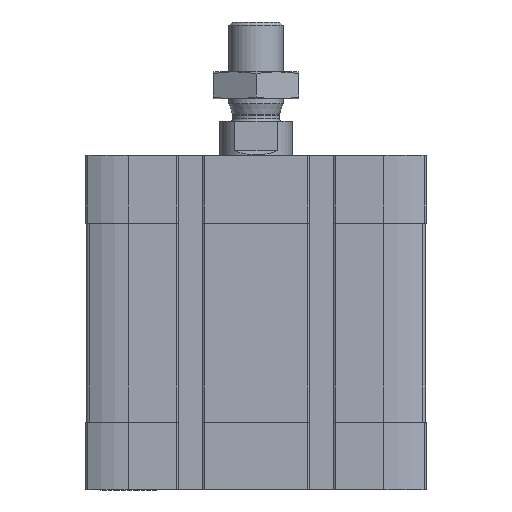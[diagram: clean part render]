
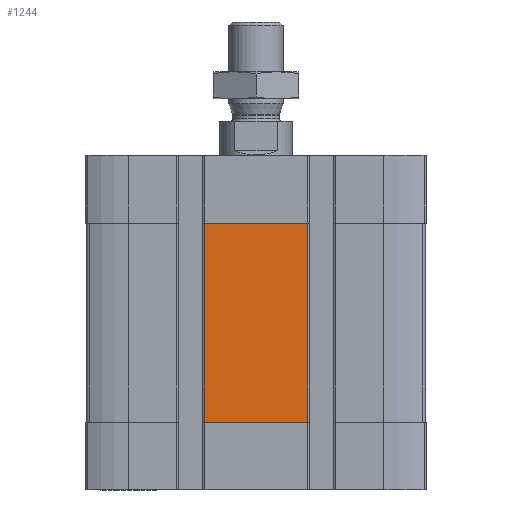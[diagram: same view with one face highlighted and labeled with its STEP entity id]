
A CAD part, front view. The second image highlights one B-rep face of the part: STEP entity #1244.
In plain terms, the highlighted planar face has unit normal (0, -1, 0).
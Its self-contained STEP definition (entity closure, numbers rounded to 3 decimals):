
#165 = DIRECTION ( 'NONE',  ( 0., 0., -1. ) ) ;
#513 = DIRECTION ( 'NONE',  ( 1., 0., 0. ) ) ;
#569 = ORIENTED_EDGE ( 'NONE', *, *, #8624, .T. ) ;
#1078 = CARTESIAN_POINT ( 'NONE',  ( -11.4, -37.5, -59. ) ) ;
#1244 = ADVANCED_FACE ( 'NONE', ( #3526 ), #6675, .T. ) ;
#1427 = CARTESIAN_POINT ( 'NONE',  ( -11.4, -37.5, -59. ) ) ;
#2797 = CARTESIAN_POINT ( 'NONE',  ( 11.4, -37.5, -59. ) ) ;
#3526 = FACE_OUTER_BOUND ( 'NONE', #9018, .T. ) ;
#3707 = VERTEX_POINT ( 'NONE', #2797 ) ;
#4234 = DIRECTION ( 'NONE',  ( -1., 0., 0. ) ) ;
#4264 = CARTESIAN_POINT ( 'NONE',  ( -11.4, -37.5, -15. ) ) ;
#4268 = CARTESIAN_POINT ( 'NONE',  ( 0., -37.5, -15. ) ) ;
#6675 = PLANE ( 'NONE',  #9198 ) ;
#7005 = EDGE_CURVE ( 'NONE', #13831, #3707, #8938, .T. ) ;
#7331 = LINE ( 'NONE', #1078, #7341 ) ;
#7341 = VECTOR ( 'NONE', #165, 1000. ) ;
#8207 = VERTEX_POINT ( 'NONE', #4264 ) ;
#8624 = EDGE_CURVE ( 'NONE', #3707, #11503, #13918, .T. ) ;
#8938 = LINE ( 'NONE', #1427, #9068 ) ;
#9018 = EDGE_LOOP ( 'NONE', ( #9195, #569, #10714, #14253 ) ) ;
#9068 = VECTOR ( 'NONE', #513, 1000. ) ;
#9192 = EDGE_CURVE ( 'NONE', #8207, #13831, #7331, .T. ) ;
#9195 = ORIENTED_EDGE ( 'NONE', *, *, #7005, .T. ) ;
#9198 = AXIS2_PLACEMENT_3D ( 'NONE', #12056, #13822, #9981 ) ;
#9554 = CARTESIAN_POINT ( 'NONE',  ( -11.4, -37.5, -59. ) ) ;
#9981 = DIRECTION ( 'NONE',  ( 0., 0., -1. ) ) ;
#10478 = EDGE_CURVE ( 'NONE', #11503, #8207, #14425, .T. ) ;
#10714 = ORIENTED_EDGE ( 'NONE', *, *, #10478, .T. ) ;
#11503 = VERTEX_POINT ( 'NONE', #12646 ) ;
#12056 = CARTESIAN_POINT ( 'NONE',  ( -11.4, -37.5, -59. ) ) ;
#12646 = CARTESIAN_POINT ( 'NONE',  ( 11.4, -37.5, -15. ) ) ;
#13822 = DIRECTION ( 'NONE',  ( 0., -1., 0. ) ) ;
#13831 = VERTEX_POINT ( 'NONE', #9554 ) ;
#13918 = LINE ( 'NONE', #14689, #14160 ) ;
#14160 = VECTOR ( 'NONE', #14645, 1000. ) ;
#14253 = ORIENTED_EDGE ( 'NONE', *, *, #9192, .T. ) ;
#14327 = VECTOR ( 'NONE', #4234, 1000. ) ;
#14425 = LINE ( 'NONE', #4268, #14327 ) ;
#14645 = DIRECTION ( 'NONE',  ( 0., 0., 1. ) ) ;
#14689 = CARTESIAN_POINT ( 'NONE',  ( 11.4, -37.5, -59. ) ) ;
